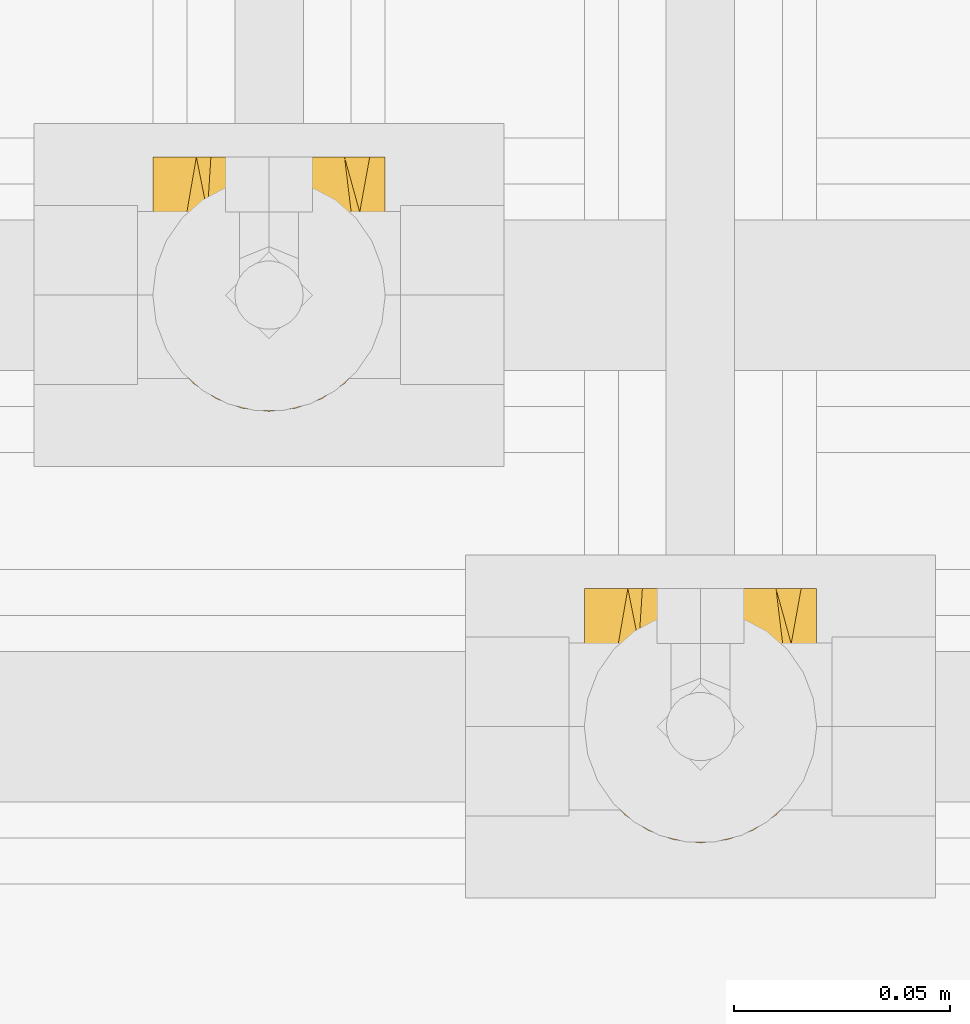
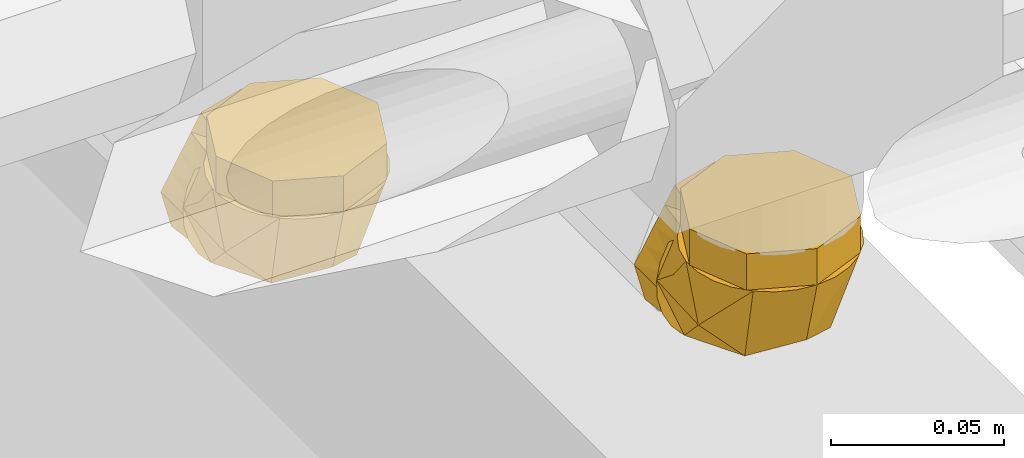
# One storey, part 366 of 652: 2 coverings.
"""IFC2X3 building model written with IfcOpenShell, lengths in millimetres."""

from ifc_helpers import new_model, entity, si_unit, converted_unit, direction, frame, origin, place, context, subcontext, project, spatial, face_set, surface_model, material, type_object, element, save


model = new_model("IFC2X3")

# Units and contexts
model_context = context("Model", 3, precision=0.01, world=frame((0.0, 0.0, 308426.39999999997)), true_north=direction((6.123233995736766e-17, 1.0)))
plan_context = context("Plan", 3, precision=0.01, world=frame((0.0, 0.0, 308426.39999999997)), true_north=direction((6.123233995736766e-17, 1.0)))
body_context = subcontext(model_context, "Body", "Model", "MODEL_VIEW")
ifc_project = project(units=[si_unit("LENGTHUNIT", "METRE", prefix="MILLI"), si_unit("AREAUNIT", "SQUARE_METRE"), si_unit("VOLUMEUNIT", "CUBIC_METRE"), converted_unit("PLANEANGLEUNIT", "DEGREE", entity("IfcPlaneAngleMeasure", 0.017453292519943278), si_unit("PLANEANGLEUNIT", "RADIAN"), dimensions=[0, 0, 0, 0, 0, 0, 0])], contexts=[model_context, plan_context])

# Site, building, storey
site_placement = place(None, origin())
site = spatial("IfcSite", under=ifc_project, at=site_placement, Name="Default", CompositionType="ELEMENT")
building_placement = place(site_placement, origin())
building = spatial("IfcBuilding", under=site, at=building_placement, CompositionType="ELEMENT")
storey_placement = place(building_placement, frame((0.0, 0.0, 1730.6999999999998)))
storey = spatial("IfcBuildingStorey", under=building, at=storey_placement, Name="EG_Produktion_FFB", CompositionType="ELEMENT", Elevation=1730.6999999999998)

# Coverings
ifc_material = material(Name="Dämmung - Armaflex-Schlauch")
covering_type = type_object("IfcCoveringType", Name="Rohrdämmung außen:Armaflex-Schlauch", PredefinedType="INSULATION")
covering_1_placement = place(storey_placement, frame((66096.95799511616, 40846.46722776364, 3731.9837499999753)))
element("IfcCovering", 1, at=covering_1_placement, inside=storey, type_object=covering_type, material=ifc_material, Name="Rohrdämmung außen:Armaflex-Schlauch", ObjectType="Rohrdämmung außen:Armaflex-Schlauch", PredefinedType="INSULATION", context=body_context, shape_type="SurfaceModel", body=[
    surface_model("IfcFaceBasedSurfaceModel", [(9.65642195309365, 47.750272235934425, -12.766250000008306), (51.38658262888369, 42.79223424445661, -12.766250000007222), (54.0915642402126, 37.040242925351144, -12.766250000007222), (55.37345654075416, 30.81456370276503, -12.76625000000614), (55.16088498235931, 24.461836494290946, -12.766250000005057), (53.465685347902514, 18.3357751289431, -12.766250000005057), (50.38224474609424, 12.777472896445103, -12.766250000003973), (46.08224622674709, 8.096410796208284, -12.766250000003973), (40.8051096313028, 4.553225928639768, -12.766250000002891), (34.844660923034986, 2.345199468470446, -12.766250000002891), (28.532772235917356, 1.5952722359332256, -12.766250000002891), (22.220883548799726, 2.345199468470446, -12.766250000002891), (16.26043484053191, 4.553225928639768, -12.766250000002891), (10.983298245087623, 8.096410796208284, -12.766250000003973), (6.683299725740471, 12.777472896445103, -12.766250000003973), (3.599859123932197, 18.3357751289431, -12.766250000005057), (1.904659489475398, 24.461836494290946, -12.766250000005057), (1.6920879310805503, 30.81456370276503, -12.76625000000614), (2.973980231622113, 37.040242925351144, -12.766250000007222), (5.678961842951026, 42.79223424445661, -12.766250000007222), (47.409122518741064, 47.750272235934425, -12.766250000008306), (5.678961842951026, 47.750272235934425, -17.72428799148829), (2.973980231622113, 47.750272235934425, -23.47627931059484), (1.6920879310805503, 47.750272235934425, -29.701958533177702), (1.904659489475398, 47.750272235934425, -36.05468574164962), (3.599859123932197, 47.750272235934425, -42.18074710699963), (6.683299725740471, 47.750272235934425, -47.73904933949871), (10.983298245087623, 47.75027223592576, -52.420111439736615), (16.26043484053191, 47.75027223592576, -55.96329630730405), (22.220883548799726, 47.75027223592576, -58.17132276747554), (28.532772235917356, 47.75027223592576, -58.92125000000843), (34.844660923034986, 47.75027223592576, -58.17132276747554), (40.8051096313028, 47.75027223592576, -55.96329630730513), (46.08224622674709, 47.75027223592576, -52.420111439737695), (50.38224474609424, 47.750272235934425, -47.73904933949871), (53.465685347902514, 47.750272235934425, -42.18074710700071), (55.16088498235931, 47.750272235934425, -36.05468574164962), (55.37345654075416, 47.750272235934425, -29.701958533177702), (54.0915642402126, 47.750272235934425, -23.47627931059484), (51.38658262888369, 47.750272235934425, -17.724287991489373), (2.277148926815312, 39.06972291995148, -22.708823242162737), (28.53136035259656, 7.778609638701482, -35.843486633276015), (3.597998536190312, 26.949532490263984, -33.56571868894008), (6.337366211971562, 19.456966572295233, -12.766406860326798), (28.53136035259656, 29.484261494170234, -48.37644256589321), (14.285718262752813, 18.675618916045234, -43.18373626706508), (6.337366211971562, 47.748262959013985, -41.061191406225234), (42.78165332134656, 18.675618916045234, -43.18373626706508), (54.79022265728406, 39.06972291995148, -22.708823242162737), (53.46472216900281, 26.949532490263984, -33.56571868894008), (50.73000537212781, 47.748262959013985, -41.061191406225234), (50.73000537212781, 19.456966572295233, -12.766406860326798), (14.247005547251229, 7.512630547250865, 0.0), (19.008927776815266, 5.540177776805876, 0.0), (23.770850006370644, 3.567725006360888, 0.0), (28.532772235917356, 1.5952722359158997, 0.0), (33.29469446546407, 3.567725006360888, 0.0), (38.05661669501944, 5.540177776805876, 0.0), (42.81853892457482, 7.512630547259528, 0.0), (47.5804611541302, 9.485083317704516, 0.0), (49.552913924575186, 14.247005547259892, 0.0), (51.525366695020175, 19.008927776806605, 0.0), (53.49781946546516, 23.77085000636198, 0.0), (55.47027223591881, 28.532772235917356, 0.0), (53.497819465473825, 33.29469446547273, 0.0), (51.525366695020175, 38.056616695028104, 0.0), (49.552913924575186, 42.81853892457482, 0.0), (47.5804611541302, 47.5804611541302, 0.0), (42.81853892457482, 49.552913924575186, 0.0), (38.05661669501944, 51.525366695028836, 0.0), (33.29469446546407, 53.497819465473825, 0.0), (28.532772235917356, 55.47027223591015, 0.0), (23.77085000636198, 53.497819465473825, 0.0), (19.008927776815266, 51.525366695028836, 0.0), (14.247005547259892, 49.55291392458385, 0.0), (9.485083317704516, 47.5804611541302, 0.0), (7.512630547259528, 42.81853892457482, 0.0), (5.54017777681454, 38.056616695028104, 0.0), (3.567725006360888, 33.29469446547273, 0.0), (1.5952722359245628, 28.532772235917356, 0.0), (3.567725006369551, 23.77085000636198, 0.0), (5.54017777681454, 19.008927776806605, 0.0), (7.512630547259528, 14.247005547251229, 0.0), (9.485083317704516, 9.485083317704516, 0.0), (28.532772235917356, 1.5952722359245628, -12.766250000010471), (23.770850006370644, 3.567725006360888, -12.766250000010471), (19.008927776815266, 5.540177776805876, -12.766250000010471), (14.247005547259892, 7.512630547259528, -12.766250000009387), (9.485083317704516, 9.48508331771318, -12.766250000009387), (7.095738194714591, 15.253472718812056, -12.766250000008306), (4.706393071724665, 21.02186211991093, -12.766250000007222), (1.5952722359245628, 28.532772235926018, -12.76625000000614), (3.567725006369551, 33.29469446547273, -12.766250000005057), (5.54017777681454, 38.056616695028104, -12.766250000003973), (7.512630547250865, 42.81853892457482, -12.766250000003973), (9.485083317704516, 47.58046115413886, -12.766250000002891), (15.253472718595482, 49.96980627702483, -12.766250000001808), (21.021862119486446, 52.35915139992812, -12.766250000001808), (28.532772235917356, 55.47027223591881, -12.766250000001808), (33.29469446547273, 53.497819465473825, -12.766250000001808), (38.05661669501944, 51.525366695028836, -12.766250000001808), (42.81853892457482, 49.552913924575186, -12.766250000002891), (47.5804611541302, 47.58046115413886, -12.766250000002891), (49.96980627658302, 41.8120717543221, -12.766250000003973), (52.359151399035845, 36.043682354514, -12.766250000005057), (55.47027223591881, 28.532772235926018, -12.76625000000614), (53.49781946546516, 23.77085000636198, -12.766250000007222), (51.525366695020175, 19.008927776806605, -12.766250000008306), (49.55291392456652, 14.247005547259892, -12.766250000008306), (47.5804611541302, 9.48508331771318, -12.766250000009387), (41.81207177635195, 7.095738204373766, -12.766250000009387), (36.0436823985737, 4.706393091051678, -12.766250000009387), (28.532772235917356, 60.51652223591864, -58.92125000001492), (22.700632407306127, 60.51652223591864, -55.55406250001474), (16.868492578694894, 60.51652223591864, -52.18687500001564), (11.036352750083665, 60.51652223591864, -48.81968750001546), (5.204212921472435, 60.51652223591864, -45.45250000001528), (3.3997425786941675, 60.51652223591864, -38.718125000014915), (1.5952722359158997, 60.51652223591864, -31.98375000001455), (4.962459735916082, 60.516522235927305, -26.1516101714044), (8.329647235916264, 60.51652223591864, -20.31947034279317), (11.696834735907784, 60.51652223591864, -14.487330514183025), (15.064022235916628, 60.51652223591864, -8.655190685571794), (21.79839723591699, 60.51652223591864, -6.850720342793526), (28.532772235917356, 60.51652223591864, -5.046250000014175), (34.36491206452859, 60.516522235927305, -8.413437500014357), (40.197051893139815, 60.51652223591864, -11.78062500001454), (46.02919172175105, 60.51652223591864, -15.147812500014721), (51.86133155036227, 60.51652223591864, -18.515000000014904), (53.66580189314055, 60.51652223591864, -25.249375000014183), (55.47027223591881, 60.51652223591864, -31.98375000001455), (52.10308473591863, 60.516522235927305, -37.81588982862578), (48.73589723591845, 60.51652223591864, -43.648029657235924), (45.368709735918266, 60.51652223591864, -49.480169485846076), (42.00152223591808, 60.51652223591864, -55.3123093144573), (35.26714723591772, 60.51652223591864, -57.11677965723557), (28.532772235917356, 47.75027223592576, -58.92125000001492), (33.29469446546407, 47.75027223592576, -56.94879722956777), (38.05661669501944, 47.75027223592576, -54.9763444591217), (42.81853892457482, 47.7502722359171, -53.00389168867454), (47.5804611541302, 47.75027223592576, -51.03143891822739), (49.552913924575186, 47.75027223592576, -46.26951668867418), (51.525366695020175, 47.75027223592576, -41.507594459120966), (53.49781946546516, 47.75027223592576, -36.74567222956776), (55.47027223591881, 47.75027223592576, -31.98375000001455), (53.497819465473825, 47.75027223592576, -27.22182777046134), (51.525366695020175, 47.75027223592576, -22.459905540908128), (49.552913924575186, 47.75027223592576, -17.697983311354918), (47.5804611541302, 47.75027223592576, -12.936061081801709), (42.81853892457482, 47.75027223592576, -10.963608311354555), (38.05661669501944, 47.75027223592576, -8.991155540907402), (33.29469446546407, 47.75027223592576, -7.01870277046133), (28.532772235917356, 47.75027223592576, -5.046250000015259), (23.77085000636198, 47.75027223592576, -7.01870277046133), (19.008927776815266, 47.75027223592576, -8.991155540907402), (14.247005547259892, 47.75027223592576, -10.963608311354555), (9.485083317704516, 47.75027223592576, -12.936061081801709), (7.512630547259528, 47.75027223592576, -17.697983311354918), (5.54017777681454, 47.75027223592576, -22.459905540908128), (3.567725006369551, 47.75027223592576, -27.22182777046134), (1.5952722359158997, 47.75027223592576, -31.98375000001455), (3.567725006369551, 47.75027223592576, -36.74567222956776), (5.54017777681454, 47.75027223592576, -41.507594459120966), (7.512630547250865, 47.7502722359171, -46.26951668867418), (9.485083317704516, 47.75027223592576, -51.03143891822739), (14.247005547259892, 47.75027223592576, -53.00389168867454), (19.008927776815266, 47.75027223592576, -54.9763444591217), (23.77085000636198, 47.7502722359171, -56.948797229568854)], [face_set([[[0, 1, 2, 3, 4, 5, 6, 7, 8, 9, 10, 11, 12, 13, 14, 15, 16, 17, 18, 19]], [[20, 21, 22, 23, 24, 25, 26, 27, 28, 29, 30, 31, 32, 33, 34, 35, 36, 37, 38, 39]], [[0, 40, 17]], [[10, 13, 41]], [[23, 42, 40]], [[42, 13, 43]], [[23, 40, 0]], [[17, 40, 42]], [[44, 41, 45]], [[13, 45, 41]], [[27, 30, 44]], [[44, 45, 27]], [[42, 27, 45]], [[42, 23, 46, 27]], [[13, 42, 45]], [[43, 17, 42]], [[7, 10, 41]], [[33, 47, 44]], [[44, 30, 33]], [[48, 49, 37]], [[49, 33, 50]], [[3, 49, 48]], [[44, 47, 41]], [[20, 48, 37]], [[47, 49, 7]], [[3, 48, 20]], [[41, 47, 7]], [[49, 3, 51]], [[33, 49, 47]], [[50, 37, 49]], [[51, 7, 49]]]), face_set([[[52, 53, 54, 55, 56, 57, 58, 59, 60, 61, 62, 63, 64, 65, 66, 67, 68, 69, 70, 71, 72, 73, 74, 75, 76, 77, 78, 79, 80, 81, 82, 83]], [[84, 85, 86, 87, 88, 89, 90, 91, 92, 93, 94, 95, 96, 97, 98, 99, 100, 101, 102, 103, 104, 105, 106, 107, 108, 109, 110, 111]], [[111, 110, 109, 59, 58, 57, 56, 55, 84]], [[59, 109, 108, 107, 106, 105, 63, 62, 61, 60]], [[104, 103, 102, 67, 66, 65, 64, 63, 105]], [[67, 102, 101, 100, 99, 98, 71, 70, 69, 68]], [[97, 96, 95, 75, 74, 73, 72, 71, 98]], [[75, 95, 94, 93, 92, 91, 79, 78, 77, 76]], [[90, 89, 88, 83, 82, 81, 80, 79, 91]], [[83, 88, 87, 86, 85, 84, 55, 54, 53, 52]]]), face_set([[[112, 113, 114, 115, 116, 117, 118, 119, 120, 121, 122, 123, 124, 125, 126, 127, 128, 129, 130, 131, 132, 133, 134, 135]], [[136, 137, 138, 139, 140, 141, 142, 143, 144, 145, 146, 147, 148, 149, 150, 151, 152, 153, 154, 155, 156, 157, 158, 159, 160, 161, 162, 163, 164, 165, 166, 167]], [[155, 121, 156]], [[118, 159, 119]], [[159, 158, 119]], [[123, 154, 153]], [[153, 152, 124]], [[121, 155, 122]], [[120, 158, 157]], [[118, 160, 159]], [[158, 120, 119]], [[124, 123, 153]], [[157, 156, 121]], [[155, 154, 122]], [[123, 122, 154]], [[120, 157, 121]], [[163, 115, 164]], [[112, 167, 113]], [[167, 166, 113]], [[117, 162, 161]], [[161, 160, 118]], [[115, 163, 116]], [[114, 166, 165]], [[112, 136, 167]], [[166, 114, 113]], [[118, 117, 161]], [[165, 164, 115]], [[163, 162, 116]], [[117, 116, 162]], [[114, 165, 115]], [[139, 133, 140]], [[130, 143, 131]], [[143, 142, 131]], [[135, 138, 137]], [[137, 136, 112]], [[133, 139, 134]], [[132, 142, 141]], [[130, 144, 143]], [[142, 132, 131]], [[112, 135, 137]], [[141, 140, 133]], [[139, 138, 134]], [[135, 134, 138]], [[132, 141, 133]], [[147, 127, 148]], [[124, 151, 125]], [[151, 150, 125]], [[129, 146, 145]], [[145, 144, 130]], [[127, 147, 128]], [[126, 150, 149]], [[124, 152, 151]], [[150, 126, 125]], [[130, 129, 145]], [[149, 148, 127]], [[147, 146, 128]], [[129, 128, 146]], [[126, 149, 127]]])]),
])
covering_2_placement = place(storey_placement, frame((66196.95799511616, 40746.46722776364, 3731.983749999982)))
element("IfcCovering", 2, at=covering_2_placement, inside=storey, type_object=covering_type, material=ifc_material, Name="Rohrdämmung außen:Armaflex-Schlauch", ObjectType="Rohrdämmung außen:Armaflex-Schlauch", PredefinedType="INSULATION", context=body_context, shape_type="SurfaceModel", body=[
    surface_model("IfcFaceBasedSurfaceModel", [(9.65642195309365, 47.750272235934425, -12.766250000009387), (51.38658262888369, 42.79223424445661, -12.766250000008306), (54.0915642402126, 37.040242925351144, -12.766250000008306), (55.37345654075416, 30.81456370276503, -12.766250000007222), (55.16088498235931, 24.461836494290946, -12.76625000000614), (53.465685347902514, 18.3357751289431, -12.76625000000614), (50.38224474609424, 12.777472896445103, -12.766250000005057), (46.08224622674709, 8.096410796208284, -12.766250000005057), (40.8051096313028, 4.553225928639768, -12.766250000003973), (34.844660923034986, 2.345199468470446, -12.766250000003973), (28.532772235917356, 1.5952722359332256, -12.766250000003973), (22.220883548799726, 2.345199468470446, -12.766250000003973), (16.26043484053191, 4.553225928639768, -12.766250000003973), (10.983298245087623, 8.096410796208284, -12.766250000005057), (6.683299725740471, 12.777472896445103, -12.766250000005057), (3.599859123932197, 18.3357751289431, -12.76625000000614), (1.904659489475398, 24.461836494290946, -12.76625000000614), (1.6920879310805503, 30.81456370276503, -12.766250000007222), (2.973980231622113, 37.040242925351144, -12.766250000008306), (5.678961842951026, 42.79223424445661, -12.766250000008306), (47.409122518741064, 47.750272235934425, -12.766250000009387), (5.678961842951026, 47.750272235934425, -17.724287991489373), (2.973980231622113, 47.750272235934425, -23.476279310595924), (1.6920879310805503, 47.750272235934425, -29.701958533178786), (1.904659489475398, 47.750272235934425, -36.0546857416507), (3.599859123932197, 47.750272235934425, -42.18074710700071), (6.683299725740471, 47.750272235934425, -47.7390493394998), (10.983298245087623, 47.75027223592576, -52.420111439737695), (16.26043484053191, 47.75027223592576, -55.96329630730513), (22.220883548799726, 47.75027223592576, -58.17132276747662), (28.532772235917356, 47.75027223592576, -58.92125000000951), (34.844660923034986, 47.75027223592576, -58.17132276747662), (40.8051096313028, 47.75027223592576, -55.963296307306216), (46.08224622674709, 47.75027223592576, -52.42011143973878), (50.38224474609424, 47.750272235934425, -47.7390493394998), (53.465685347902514, 47.750272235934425, -42.1807471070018), (55.16088498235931, 47.750272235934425, -36.0546857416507), (55.37345654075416, 47.750272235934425, -29.701958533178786), (54.0915642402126, 47.750272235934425, -23.476279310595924), (51.38658262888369, 47.750272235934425, -17.724287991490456), (2.2756962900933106, 39.07117555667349, -22.70882324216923), (28.534558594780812, 7.780062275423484, -35.84348663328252), (3.6011967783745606, 26.950985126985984, -33.565718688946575), (6.335913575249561, 19.453768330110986, -12.766406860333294), (28.534558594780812, 29.485714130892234, -48.3764425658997), (14.28426562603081, 18.677071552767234, -43.18373626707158), (6.335913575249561, 47.749715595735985, -41.061191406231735), (42.78020068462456, 18.677071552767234, -43.18373626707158), (54.78877002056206, 39.07117555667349, -22.70882324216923), (53.46792041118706, 26.950985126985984, -33.565718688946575), (50.72855273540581, 47.749715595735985, -41.061191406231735), (50.72855273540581, 19.453768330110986, -12.766406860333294), (14.247005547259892, 7.512630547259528, 0.0), (19.008927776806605, 5.54017777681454, 0.0), (23.77085000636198, 3.567725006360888, 0.0), (28.532772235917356, 1.5952722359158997, 0.0), (33.29469446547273, 3.567725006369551, 0.0), (38.056616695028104, 5.54017777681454, 0.0), (42.818538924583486, 7.512630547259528, 0.0), (47.5804611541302, 9.485083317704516, 0.0), (49.55291392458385, 14.247005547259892, 0.0), (51.525366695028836, 19.008927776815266, 0.0), (53.497819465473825, 23.770850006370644, 0.0), (55.47027223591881, 28.532772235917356, 0.0), (53.497819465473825, 33.29469446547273, 0.0), (51.525366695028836, 38.05661669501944, 0.0), (49.552913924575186, 42.81853892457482, 0.0), (47.5804611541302, 47.5804611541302, 0.0), (42.818538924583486, 49.552913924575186, 0.0), (38.056616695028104, 51.525366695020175, 0.0), (33.29469446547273, 53.497819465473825, 0.0), (28.532772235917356, 55.47027223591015, 0.0), (23.77085000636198, 53.497819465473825, 0.0), (19.008927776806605, 51.525366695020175, 0.0), (14.247005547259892, 49.552913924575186, 0.0), (9.485083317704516, 47.5804611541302, 0.0), (7.512630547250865, 42.81853892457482, 0.0), (5.540177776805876, 38.05661669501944, 0.0), (3.567725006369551, 33.29469446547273, 0.0), (1.5952722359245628, 28.532772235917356, 0.0), (3.567725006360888, 23.770850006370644, 0.0), (5.540177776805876, 19.008927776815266, 0.0), (7.512630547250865, 14.247005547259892, 0.0), (9.485083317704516, 9.485083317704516, 0.0), (28.532772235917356, 1.5952722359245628, -12.766250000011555), (23.77085000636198, 3.567725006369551, -12.766250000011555), (19.008927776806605, 5.54017777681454, -12.766250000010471), (14.247005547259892, 7.512630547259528, -12.766250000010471), (9.485083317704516, 9.48508331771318, -12.766250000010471), (7.095738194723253, 15.253472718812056, -12.766250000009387), (4.706393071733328, 21.02186211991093, -12.766250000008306), (1.5952722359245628, 28.532772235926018, -12.766250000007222), (3.567725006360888, 33.29469446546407, -12.76625000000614), (5.540177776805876, 38.05661669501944, -12.76625000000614), (7.512630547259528, 42.81853892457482, -12.766250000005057), (9.485083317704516, 47.58046115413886, -12.766250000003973), (15.253472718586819, 49.96980627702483, -12.766250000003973), (21.021862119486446, 52.35915139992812, -12.766250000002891), (28.532772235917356, 55.47027223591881, -12.766250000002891), (33.29469446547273, 53.49781946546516, -12.766250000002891), (38.056616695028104, 51.525366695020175, -12.766250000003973), (42.81853892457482, 49.552913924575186, -12.766250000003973), (47.5804611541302, 47.58046115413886, -12.766250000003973), (49.96980627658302, 41.8120717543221, -12.766250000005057), (52.359151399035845, 36.043682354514, -12.766250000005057), (55.47027223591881, 28.532772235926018, -12.766250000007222), (53.497819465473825, 23.77085000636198, -12.766250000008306), (51.525366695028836, 19.008927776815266, -12.766250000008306), (49.552913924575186, 14.247005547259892, -12.766250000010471), (47.5804611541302, 9.48508331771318, -12.766250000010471), (41.81207177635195, 7.095738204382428, -12.766250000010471), (36.0436823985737, 4.706393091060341, -12.766250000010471), (28.532772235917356, 60.51652223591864, -58.921250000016), (22.70063240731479, 60.516522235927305, -55.554062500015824), (16.868492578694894, 60.516522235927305, -52.18687500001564), (11.036352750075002, 60.51652223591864, -48.81968750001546), (5.204212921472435, 60.51652223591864, -45.45250000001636), (3.3997425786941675, 60.51652223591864, -38.718125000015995), (1.5952722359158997, 60.51652223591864, -31.983750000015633), (4.962459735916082, 60.516522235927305, -26.151610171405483), (8.329647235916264, 60.516522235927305, -20.319470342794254), (11.696834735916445, 60.51652223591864, -14.487330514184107), (15.064022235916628, 60.51652223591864, -8.655190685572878), (21.79839723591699, 60.51652223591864, -6.850720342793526), (28.532772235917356, 60.51652223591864, -5.046250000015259), (34.36491206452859, 60.516522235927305, -8.41343750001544), (40.197051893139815, 60.516522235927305, -11.780625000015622), (46.02919172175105, 60.51652223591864, -15.147812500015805), (51.86133155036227, 60.51652223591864, -18.515000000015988), (53.66580189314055, 60.51652223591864, -25.24937500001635), (55.47027223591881, 60.51652223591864, -31.983750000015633), (52.10308473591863, 60.516522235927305, -37.81588982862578), (48.73589723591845, 60.516522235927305, -43.64802965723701), (45.36870973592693, 60.51652223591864, -49.480169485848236), (42.00152223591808, 60.51652223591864, -55.31230931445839), (35.26714723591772, 60.51652223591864, -57.116779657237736), (28.532772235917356, 47.75027223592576, -58.921250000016), (33.29469446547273, 47.75027223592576, -56.948797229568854), (38.056616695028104, 47.75027223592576, -54.9763444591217), (42.81853892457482, 47.75027223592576, -53.00389168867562), (47.5804611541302, 47.75027223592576, -51.031438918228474), (49.55291392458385, 47.75027223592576, -46.26951668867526), (51.525366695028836, 47.75027223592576, -41.50759445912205), (53.497819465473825, 47.75027223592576, -36.74567222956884), (55.47027223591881, 47.75027223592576, -31.983750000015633), (53.497819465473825, 47.75027223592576, -27.221827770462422), (51.525366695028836, 47.75027223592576, -22.45990554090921), (49.55291392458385, 47.75027223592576, -17.697983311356), (47.5804611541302, 47.75027223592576, -12.936061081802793), (42.81853892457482, 47.75027223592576, -10.96360831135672), (38.056616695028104, 47.75027223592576, -8.991155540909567), (33.29469446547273, 47.75027223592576, -7.018702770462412), (28.532772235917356, 47.75027223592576, -5.046250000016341), (23.77085000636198, 47.75027223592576, -7.018702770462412), (19.008927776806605, 47.75027223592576, -8.991155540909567), (14.247005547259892, 47.75027223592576, -10.963608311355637), (9.485083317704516, 47.75027223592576, -12.936061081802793), (7.512630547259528, 47.75027223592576, -17.697983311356), (5.540177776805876, 47.75027223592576, -22.45990554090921), (3.567725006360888, 47.75027223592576, -27.221827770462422), (1.5952722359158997, 47.75027223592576, -31.983750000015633), (3.567725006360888, 47.75027223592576, -36.74567222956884), (5.540177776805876, 47.75027223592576, -41.50759445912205), (7.512630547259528, 47.75027223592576, -46.26951668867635), (9.485083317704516, 47.75027223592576, -51.031438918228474), (14.247005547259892, 47.75027223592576, -53.00389168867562), (19.008927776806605, 47.75027223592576, -54.9763444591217), (23.77085000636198, 47.75027223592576, -56.948797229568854)], [face_set([[[0, 1, 2, 3, 4, 5, 6, 7, 8, 9, 10, 11, 12, 13, 14, 15, 16, 17, 18, 19]], [[20, 21, 22, 23, 24, 25, 26, 27, 28, 29, 30, 31, 32, 33, 34, 35, 36, 37, 38, 39]], [[0, 40, 17]], [[10, 13, 41]], [[23, 42, 40]], [[42, 13, 43]], [[23, 40, 0]], [[17, 40, 42]], [[44, 41, 45]], [[13, 45, 41]], [[27, 30, 44]], [[44, 45, 27]], [[42, 27, 45]], [[42, 23, 46]], [[13, 42, 45]], [[43, 17, 42]], [[46, 27, 42]], [[7, 10, 41]], [[33, 47, 44]], [[44, 30, 33]], [[48, 49, 37]], [[49, 33, 50, 37]], [[3, 49, 48]], [[44, 47, 41]], [[20, 48, 37]], [[47, 49, 7]], [[3, 48, 20]], [[41, 47, 7]], [[49, 3, 51]], [[33, 49, 47]], [[51, 7, 49]]]), face_set([[[52, 53, 54, 55, 56, 57, 58, 59, 60, 61, 62, 63, 64, 65, 66, 67, 68, 69, 70, 71, 72, 73, 74, 75, 76, 77, 78, 79, 80, 81, 82, 83]], [[84, 85, 86, 87, 88, 89, 90, 91, 92, 93, 94, 95, 96, 97, 98, 99, 100, 101, 102, 103, 104, 105, 106, 107, 108, 109, 110, 111]], [[111, 110, 109, 59, 58, 57, 56, 55, 84]], [[59, 109, 108, 107, 106, 105, 63, 62, 61, 60]], [[104, 103, 102, 67, 66, 65, 64, 63, 105]], [[67, 102, 101, 100, 99, 98, 71, 70, 69, 68]], [[97, 96, 95, 75, 74, 73, 72, 71, 98]], [[75, 95, 94, 93, 92, 91, 79, 78, 77, 76]], [[90, 89, 88, 83, 82, 81, 80, 79, 91]], [[83, 88, 87, 86, 85, 84, 55, 54, 53, 52]]]), face_set([[[112, 113, 114, 115, 116, 117, 118, 119, 120, 121, 122, 123, 124, 125, 126, 127, 128, 129, 130, 131, 132, 133, 134, 135]], [[136, 137, 138, 139, 140, 141, 142, 143, 144, 145, 146, 147, 148, 149, 150, 151, 152, 153, 154, 155, 156, 157, 158, 159, 160, 161, 162, 163, 164, 165, 166, 167]], [[155, 121, 156]], [[118, 159, 119]], [[159, 158, 119]], [[123, 154, 153]], [[153, 152, 124]], [[121, 155, 122]], [[120, 158, 157]], [[118, 160, 159]], [[158, 120, 119]], [[124, 123, 153]], [[157, 156, 121]], [[155, 154, 122]], [[123, 122, 154]], [[120, 157, 121]], [[163, 115, 164]], [[112, 167, 113]], [[167, 166, 113]], [[117, 162, 161]], [[161, 160, 118]], [[115, 163, 116]], [[114, 166, 165]], [[112, 136, 167]], [[166, 114, 113]], [[118, 117, 161]], [[165, 164, 115]], [[163, 162, 116]], [[117, 116, 162]], [[114, 165, 115]], [[139, 133, 140]], [[130, 143, 131]], [[143, 142, 131]], [[135, 138, 137]], [[137, 136, 112]], [[133, 139, 134]], [[132, 142, 141]], [[130, 144, 143]], [[142, 132, 131]], [[112, 135, 137]], [[141, 140, 133]], [[139, 138, 134]], [[135, 134, 138]], [[132, 141, 133]], [[147, 127, 148]], [[124, 151, 125]], [[151, 150, 125]], [[129, 146, 145]], [[145, 144, 130]], [[127, 147, 128]], [[126, 150, 149]], [[124, 152, 151]], [[150, 126, 125]], [[130, 129, 145]], [[149, 148, 127]], [[147, 146, 128]], [[129, 128, 146]], [[126, 149, 127]]])]),
])

save(model, "model.ifc")
